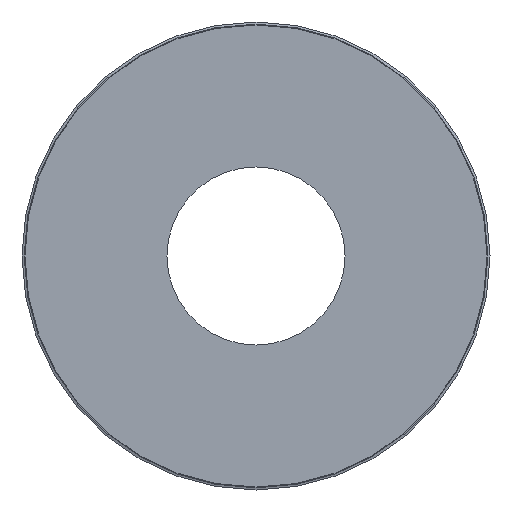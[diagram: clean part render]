
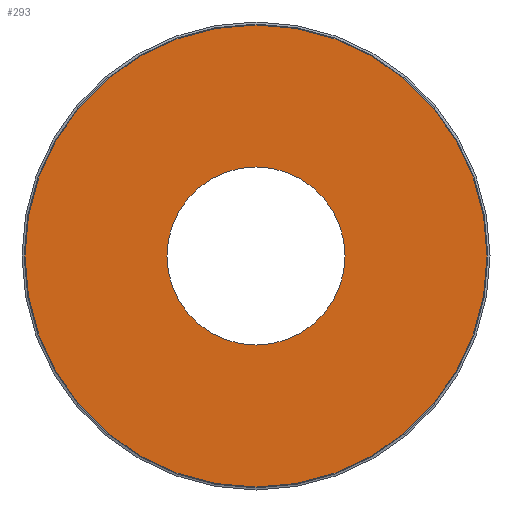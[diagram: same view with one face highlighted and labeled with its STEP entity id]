
A CAD part, front view. The second image highlights one B-rep face of the part: STEP entity #293.
In plain terms, the highlighted planar face has unit normal (0, -1, 0).
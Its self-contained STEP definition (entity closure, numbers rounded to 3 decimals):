
#219=CARTESIAN_POINT('',(-4.931,0.,0.0));
#220=VERTEX_POINT('',#219);
#221=CARTESIAN_POINT('',(0.0,0.,0.0));
#222=DIRECTION('',(0.0,1.0,0.0));
#223=DIRECTION('',(-1.0,0.0,0.0));
#224=AXIS2_PLACEMENT_3D('',#221,#222,#223);
#225=CIRCLE('',#224,4.931);
#226=EDGE_CURVE('',#220,#220,#225,.T.);
#274=CARTESIAN_POINT('',(-3.415,0.,0.0));
#275=DIRECTION('',(0.0,-1.0,0.0));
#276=DIRECTION('',(0.0,0.0,-1.0));
#277=AXIS2_PLACEMENT_3D('',#274,#275,#276);
#278=PLANE('',#277);
#279=ORIENTED_EDGE('',*,*,#226,.F.);
#280=EDGE_LOOP('',(#279));
#281=FACE_OUTER_BOUND('',#280,.T.);
#282=CARTESIAN_POINT('',(-1.9,0.0,0.0));
#283=VERTEX_POINT('',#282);
#284=CARTESIAN_POINT('',(0.0,0.0,0.0));
#285=DIRECTION('',(0.0,1.0,0.0));
#286=DIRECTION('',(-1.0,0.0,0.0));
#287=AXIS2_PLACEMENT_3D('',#284,#285,#286);
#288=CIRCLE('',#287,1.9);
#289=EDGE_CURVE('',#283,#283,#288,.T.);
#290=ORIENTED_EDGE('',*,*,#289,.T.);
#291=EDGE_LOOP('',(#290));
#292=FACE_BOUND('',#291,.T.);
#293=ADVANCED_FACE('',(#281,#292),#278,.T.);
